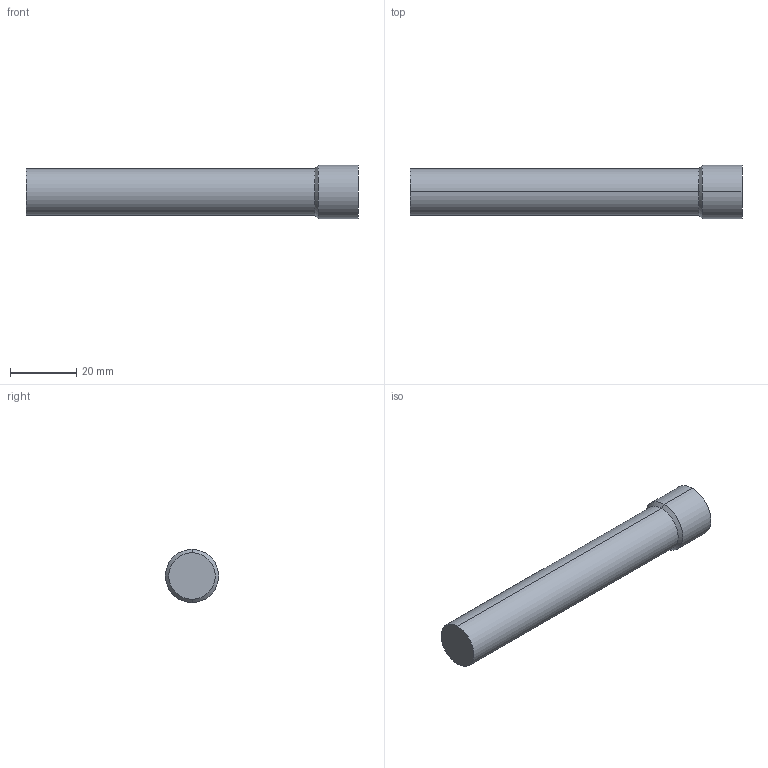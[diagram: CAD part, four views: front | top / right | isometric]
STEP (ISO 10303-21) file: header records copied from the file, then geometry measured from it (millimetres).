
FILE_DESCRIPTION (( 'STEP AP214' ), '1' );
FILE_NAME ('BR89-1-4x100.STEP', '2020-06-23T10:33:07', ( '' ), ( '' ), 'SwSTEP 2.0', 'SolidWorks 2018', '' );
FILE_SCHEMA (( 'AUTOMOTIVE_DESIGN' ));
Length unit declared in the file: millimetre
Products named in the file (1): BR89-1-4x100
Bounding box: 100 x 16 x 16 mm (x, y, z)
Volume: 15428.1 mm3; surface area: 5128.4 mm2
Topology: 1 solids, 1 shells, 15 faces, 32 edges, 20 vertices
Faces by surface type: plane 9, cylinder 4, cone 2
Entity records: 436 total; most frequent: DIRECTION 72, CARTESIAN_POINT 68, ORIENTED_EDGE 64, EDGE_CURVE 32, AXIS2_PLACEMENT_3D 24, LINE 24, VECTOR 24, VERTEX_POINT 20
